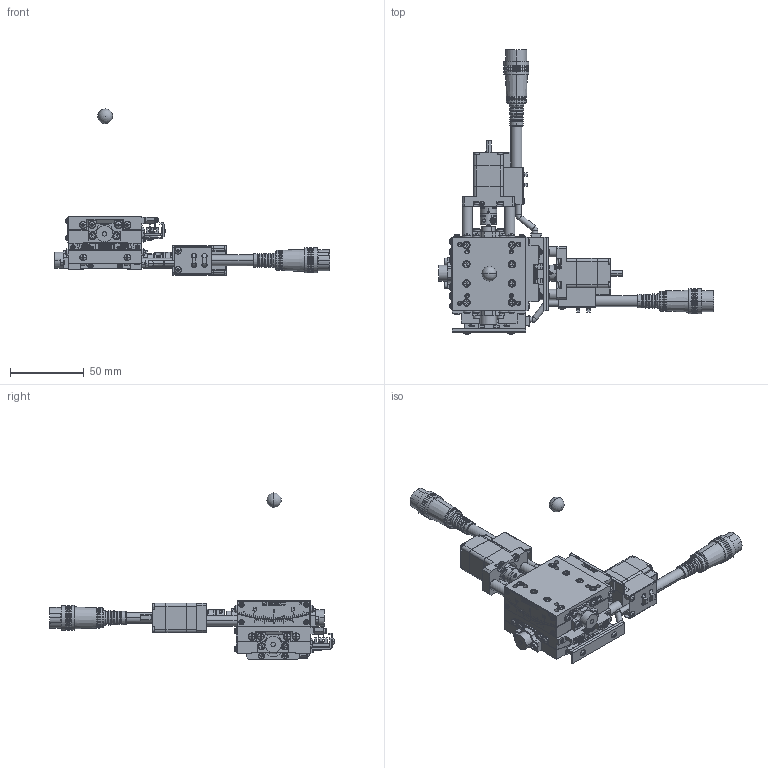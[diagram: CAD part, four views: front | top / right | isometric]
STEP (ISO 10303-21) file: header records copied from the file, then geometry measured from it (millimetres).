
FILE_DESCRIPTION (( 'STEP AP203' ), '1' );
FILE_NAME ('SA05A-R2L01-RRR.STEP', '2019-12-03T10:48:52', ( '' ), ( '' ), 'SwSTEP 2.0', 'SolidWorks 2018', '' );
FILE_SCHEMA (( 'CONFIG_CONTROL_DESIGN' ));
Length unit declared in the file: millimetre
Products named in the file (12): second table-Part-3; base-Part-3; table; second table-Part-2; base-Part-2; table-Part-1; second table-Part-1; SA05A-R2L01-RRR; second table; rotation center; base-Part-1; base
Assembly tree (11 placements, depth 3):
  SA05A-R2L01-RRR
    base
      base-Part-1
      base-Part-2
      base-Part-3
    table
      table-Part-1
    second table
      second table-Part-1
      second table-Part-2
      second table-Part-3
    rotation center
Bounding box: 187 x 193.68 x 113 mm (x, y, z)
Volume: 152306.2 mm3; surface area: 77699.6 mm2
Topology: 8 solids, 16 shells, 5077 faces, 12739 edges, 7882 vertices
Faces by surface type: plane 3161, cylinder 1106, cone 432, torus 268, sphere 98, bspline 12
Entity records: 155793 total; most frequent: CARTESIAN_POINT 31375, DIRECTION 26610, ORIENTED_EDGE 25120, EDGE_CURVE 12560, AXIS2_PLACEMENT_3D 9402, VERTEX_POINT 7871, LINE 7806, VECTOR 7806
